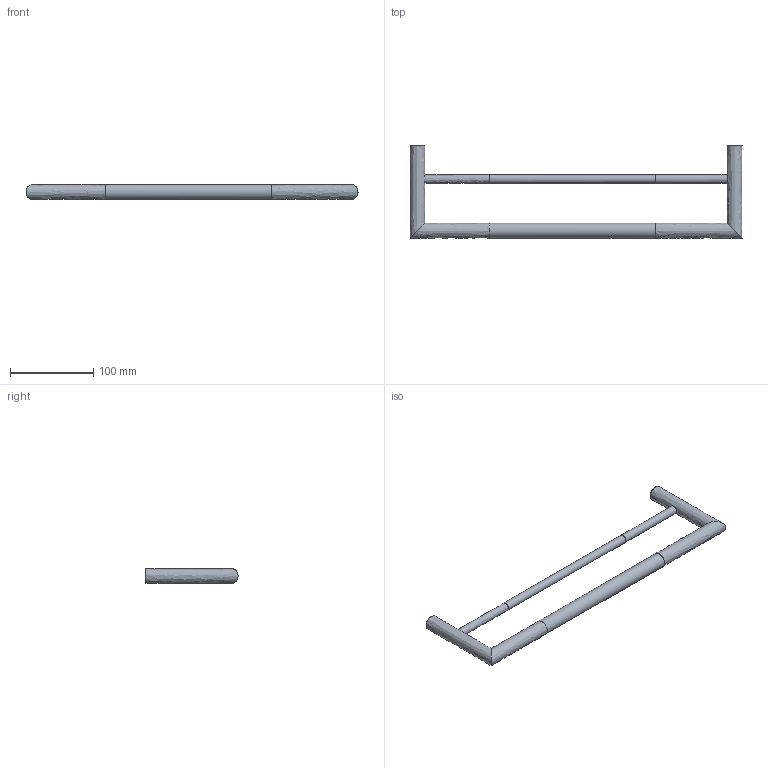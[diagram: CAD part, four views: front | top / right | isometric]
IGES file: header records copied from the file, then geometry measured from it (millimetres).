
Global section: file name: /Users/f/Desktop/II/AM216.igs; native system: Rhinoceros ( Jul 22 2010 ); preprocessor: Trout Lake IGES 012 Jul 22 2010; date: 100802.142952; units: millimetre
Bounding box: 400 x 111 x 18 mm (x, y, z)
Surface area: 45162.8 mm2 (no closed solid volume)
Topology: 0 solids, 0 shells, 12 faces, 535 edges, 526 vertices
Faces by surface type: bspline 12
